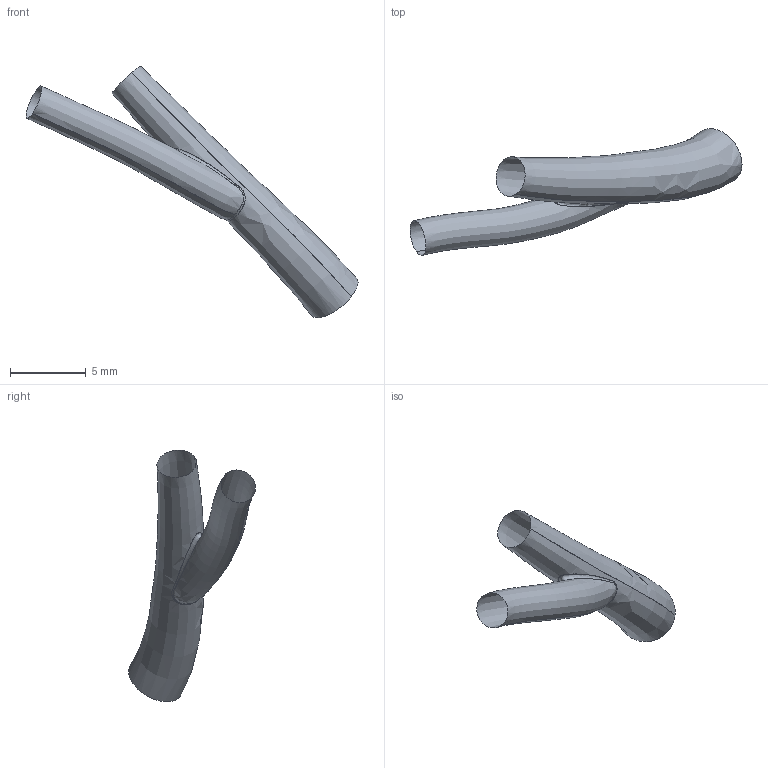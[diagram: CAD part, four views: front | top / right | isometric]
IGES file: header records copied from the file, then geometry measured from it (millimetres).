
Global section: file name: C:\Documents and Settings\Administrator\Desktop\FDA Bifurcation win\RawData_for_IGES\HRCA_Data\20000719.092552\IGES\20000719.092552.PDA.BIFUR.ES.igs; native system: Rhinoceros ( May 19 2006 ); preprocessor: Trout Lake IGES 012 May 19 2006; date: 100728.202154; units: centimetre
Bounding box: 21.88 x 8.36 x 16.59 mm (x, y, z)
Surface area: 298.1 mm2 (no closed solid volume)
Topology: 0 solids, 0 shells, 3 faces, 70 edges, 65 vertices
Faces by surface type: bspline 3
